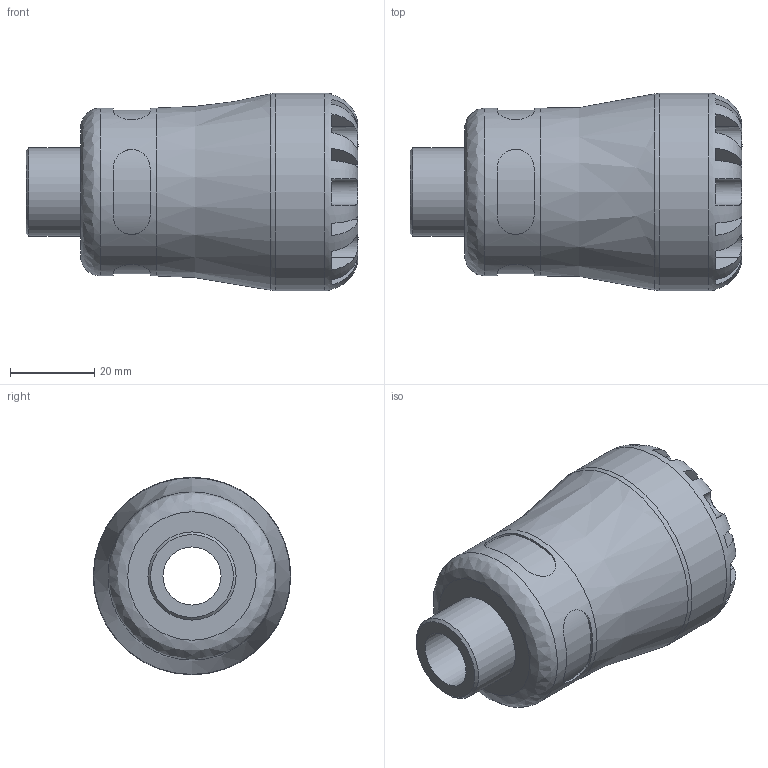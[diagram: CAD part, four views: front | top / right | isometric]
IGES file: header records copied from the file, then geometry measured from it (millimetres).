
Global section: file name: 107200025005_197200025005.ipt; native system: Autodesk Inventor 2015; preprocessor: unknown; author: KIM; date: 20170122.104921; units: millimetre
Bounding box: 79 x 47 x 47 mm (x, y, z)
Volume: 68123.1 mm3; surface area: 18058.3 mm2
Topology: 1 solids, 1 shells, 99 faces, 255 edges, 163 vertices
Faces by surface type: plane 60, revolution 23, cylinder 15, cone 1
Full cylindrical faces by diameter (mm): 20.955 x1, 39.95 x1, 47 x1
